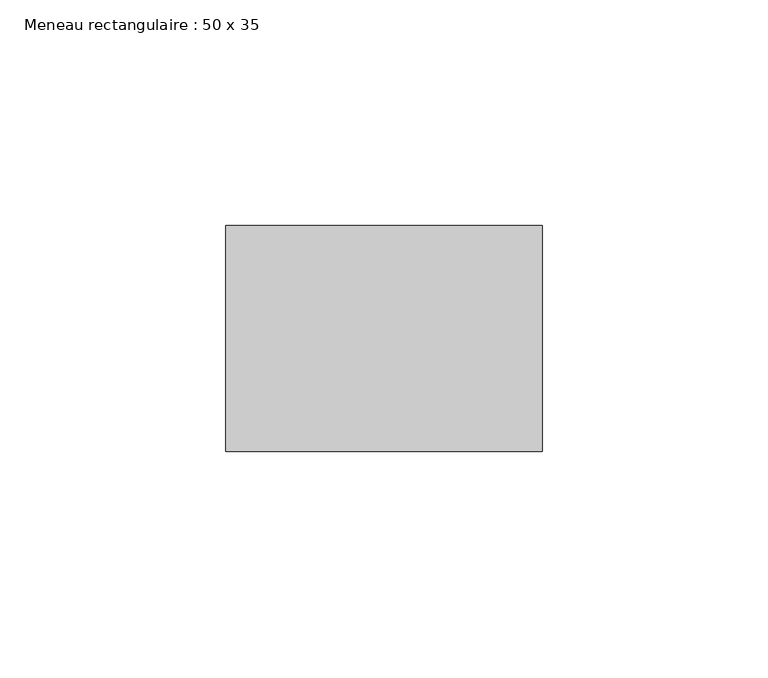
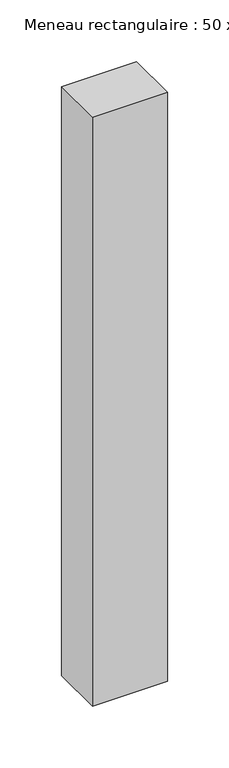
"""IFC4 building model written with IfcOpenShell, lengths in millimetres: member geometry, Meneau rectangulaire : 50 x 35."""

from ifc_helpers import new_model, si_unit, frame, origin, place, context, project, spatial, polyline, outline, extrude, source, transform, mapped, element, save


def meneau_rectangulaire_50_x_35_fc5aee7b(model_context):
    return source(origin(), model_context, "Body", "SweptSolid", [
        extrude(outline(polyline([(0.0, 0.0), (0.0, -50.0), (-70.0, -50.0), (-70.0, 0.0), (0.0, 0.0)])), frame((0.0, 0.0, -582.0), z_axis=(0.0, 0.0, 1.0), x_axis=(1.0, 0.0, 0.0)), (0.0, 0.0, 1.0), 582.0),
    ])


if __name__ == "__main__":
    model = new_model("IFC4")
    model_context = context("Model", 3, world=origin())
    ifc_project = project(units=[si_unit("LENGTHUNIT", "METRE", prefix="MILLI")], contexts=[model_context])
    site = spatial("IfcSite", under=ifc_project)
    building = spatial("IfcBuilding", under=site)
    placement = place(None, origin())
    meneau_rectangulaire_50_x_35_shape = meneau_rectangulaire_50_x_35_fc5aee7b(model_context)
    element("IfcMember", 1, ObjectType="Meneau rectangulaire : 50 x 35", at=placement, inside=building, context=model_context, shape_type="MappedRepresentation", body=[
        mapped(meneau_rectangulaire_50_x_35_shape, transform((0.0, 0.0, 0.0), x_axis=(1.0, 0.0, 0.0), y_axis=(0.0, 1.0, 0.0), z_axis=(0.0, 0.0, 1.0))),
    ])
    save(model, "model.ifc")
